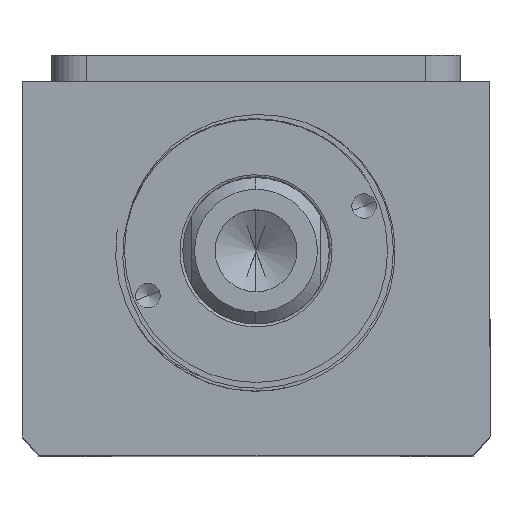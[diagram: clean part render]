
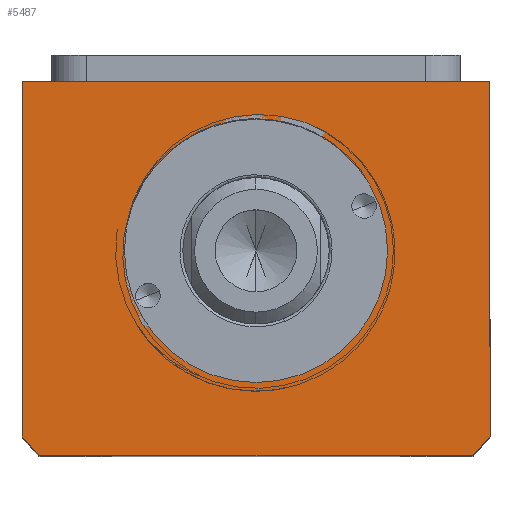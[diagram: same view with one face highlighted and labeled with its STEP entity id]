
A CAD part, top view. The second image highlights one B-rep face of the part: STEP entity #5487.
In plain terms, the highlighted planar face has unit normal (0, 0, 1).
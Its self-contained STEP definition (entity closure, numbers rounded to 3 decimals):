
#238 = CARTESIAN_POINT ( 'NONE',  ( 40., -72.145, 115. ) ) ;
#565 = PLANE ( 'NONE',  #3935 ) ;
#609 = EDGE_CURVE ( 'NONE', #4847, #1474, #8427, .T. ) ;
#1273 = CARTESIAN_POINT ( 'NONE',  ( 22.5, -40.507, 115. ) ) ;
#1474 = VERTEX_POINT ( 'NONE', #1273 ) ;
#1573 = CARTESIAN_POINT ( 'NONE',  ( 40., -11.507, 115. ) ) ;
#1595 = EDGE_LOOP ( 'NONE', ( #6026, #8438, #2454, #2713, #2979, #7553 ) ) ;
#1601 = DIRECTION ( 'NONE',  ( 0., 0., 1. ) ) ;
#1690 = FACE_OUTER_BOUND ( 'NONE', #1595, .T. ) ;
#1784 = DIRECTION ( 'NONE',  ( 0., 0., 1. ) ) ;
#1948 = CIRCLE ( 'NONE', #7141, 51. ) ;
#2321 = DIRECTION ( 'NONE',  ( -1., 0., 0. ) ) ;
#2454 = ORIENTED_EDGE ( 'NONE', *, *, #4467, .T. ) ;
#2462 = CARTESIAN_POINT ( 'NONE',  ( 0., -40.507, 115. ) ) ;
#2469 = CARTESIAN_POINT ( 'NONE',  ( 37.094, -75.507, 115. ) ) ;
#2573 = AXIS2_PLACEMENT_3D ( 'NONE', #6685, #1784, #7484 ) ;
#2713 = ORIENTED_EDGE ( 'NONE', *, *, #4376, .T. ) ;
#2979 = ORIENTED_EDGE ( 'NONE', *, *, #8548, .T. ) ;
#3059 = CARTESIAN_POINT ( 'NONE',  ( -40., -11.507, 115. ) ) ;
#3077 = DIRECTION ( 'NONE',  ( 1., 0., 0. ) ) ;
#3102 = ORIENTED_EDGE ( 'NONE', *, *, #3687, .F. ) ;
#3162 = DIRECTION ( 'NONE',  ( 0., 0., 1. ) ) ;
#3303 = DIRECTION ( 'NONE',  ( 1., 0., 0. ) ) ;
#3440 = VECTOR ( 'NONE', #2321, 1000. ) ;
#3687 = EDGE_CURVE ( 'NONE', #1474, #4847, #7697, .T. ) ;
#3819 = LINE ( 'NONE', #3858, #5982 ) ;
#3858 = CARTESIAN_POINT ( 'NONE',  ( -40., -11.507, 115. ) ) ;
#3935 = AXIS2_PLACEMENT_3D ( 'NONE', #4671, #7934, #3077 ) ;
#4376 = EDGE_CURVE ( 'NONE', #6632, #9170, #1948, .T. ) ;
#4384 = CARTESIAN_POINT ( 'NONE',  ( -37.094, -75.507, 115. ) ) ;
#4467 = EDGE_CURVE ( 'NONE', #6149, #6632, #5809, .T. ) ;
#4545 = CARTESIAN_POINT ( 'NONE',  ( 40., -11.507, 115. ) ) ;
#4567 = EDGE_CURVE ( 'NONE', #4818, #6149, #5543, .T. ) ;
#4671 = CARTESIAN_POINT ( 'NONE',  ( 0., 0., 115. ) ) ;
#4818 = VERTEX_POINT ( 'NONE', #8078 ) ;
#4847 = VERTEX_POINT ( 'NONE', #8892 ) ;
#5090 = LINE ( 'NONE', #3059, #3440 ) ;
#5183 = VERTEX_POINT ( 'NONE', #10057 ) ;
#5487 = ADVANCED_FACE ( 'NONE', ( #10340, #1690 ), #565, .T. ) ;
#5543 = CIRCLE ( 'NONE', #2573, 51. ) ;
#5693 = DIRECTION ( 'NONE',  ( 1., 0., 0. ) ) ;
#5766 = EDGE_CURVE ( 'NONE', #5183, #4818, #3819, .T. ) ;
#5809 = LINE ( 'NONE', #6584, #9839 ) ;
#5982 = VECTOR ( 'NONE', #9520, 1000. ) ;
#6026 = ORIENTED_EDGE ( 'NONE', *, *, #5766, .T. ) ;
#6149 = VERTEX_POINT ( 'NONE', #4384 ) ;
#6391 = EDGE_LOOP ( 'NONE', ( #3102, #9816 ) ) ;
#6508 = EDGE_CURVE ( 'NONE', #7491, #5183, #5090, .T. ) ;
#6511 = DIRECTION ( 'NONE',  ( 1., 0., 0. ) ) ;
#6584 = CARTESIAN_POINT ( 'NONE',  ( -40., -75.507, 115. ) ) ;
#6632 = VERTEX_POINT ( 'NONE', #2469 ) ;
#6685 = CARTESIAN_POINT ( 'NONE',  ( 0., -40.507, 115. ) ) ;
#7121 = VECTOR ( 'NONE', #7326, 1000. ) ;
#7141 = AXIS2_PLACEMENT_3D ( 'NONE', #8025, #3162, #8831 ) ;
#7313 = CARTESIAN_POINT ( 'NONE',  ( 0., -40.507, 115. ) ) ;
#7326 = DIRECTION ( 'NONE',  ( 0., 1., 0. ) ) ;
#7484 = DIRECTION ( 'NONE',  ( 1., 0., 0. ) ) ;
#7491 = VERTEX_POINT ( 'NONE', #4545 ) ;
#7553 = ORIENTED_EDGE ( 'NONE', *, *, #6508, .T. ) ;
#7697 = CIRCLE ( 'NONE', #9558, 22.5 ) ;
#7934 = DIRECTION ( 'NONE',  ( 0., 0., 1. ) ) ;
#8025 = CARTESIAN_POINT ( 'NONE',  ( 0., -40.507, 115. ) ) ;
#8078 = CARTESIAN_POINT ( 'NONE',  ( -40., -72.145, 115. ) ) ;
#8160 = DIRECTION ( 'NONE',  ( 0., 0., 1. ) ) ;
#8427 = CIRCLE ( 'NONE', #9484, 22.5 ) ;
#8438 = ORIENTED_EDGE ( 'NONE', *, *, #4567, .T. ) ;
#8548 = EDGE_CURVE ( 'NONE', #9170, #7491, #9268, .T. ) ;
#8831 = DIRECTION ( 'NONE',  ( 1., 0., 0. ) ) ;
#8892 = CARTESIAN_POINT ( 'NONE',  ( -22.5, -40.507, 115. ) ) ;
#9170 = VERTEX_POINT ( 'NONE', #238 ) ;
#9268 = LINE ( 'NONE', #1573, #7121 ) ;
#9484 = AXIS2_PLACEMENT_3D ( 'NONE', #7313, #1601, #6511 ) ;
#9520 = DIRECTION ( 'NONE',  ( 0., -1., 0. ) ) ;
#9558 = AXIS2_PLACEMENT_3D ( 'NONE', #2462, #8160, #3303 ) ;
#9816 = ORIENTED_EDGE ( 'NONE', *, *, #609, .F. ) ;
#9839 = VECTOR ( 'NONE', #5693, 1000. ) ;
#10057 = CARTESIAN_POINT ( 'NONE',  ( -40., -11.507, 115. ) ) ;
#10340 = FACE_BOUND ( 'NONE', #6391, .T. ) ;
